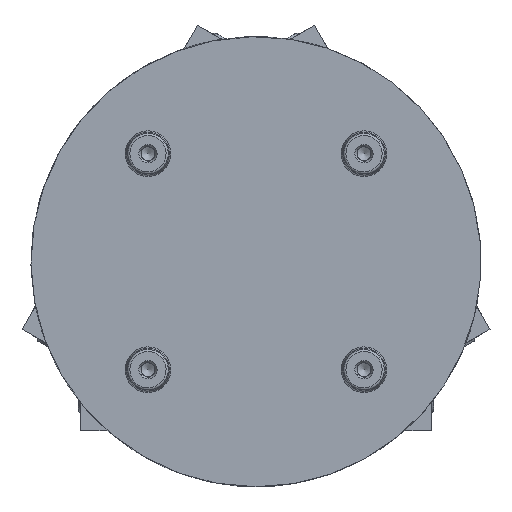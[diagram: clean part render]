
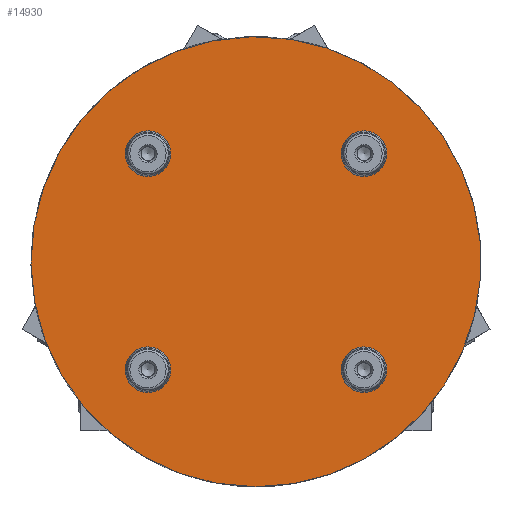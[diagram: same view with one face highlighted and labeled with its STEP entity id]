
A CAD part, front view. The second image highlights one B-rep face of the part: STEP entity #14930.
In plain terms, the highlighted planar face has unit normal (0, -1, 0).
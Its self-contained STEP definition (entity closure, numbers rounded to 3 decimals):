
#125 = VERTEX_POINT ( 'NONE', #13657 ) ;
#210 = CARTESIAN_POINT ( 'NONE',  ( 48., -22., 56.007 ) ) ;
#482 = VERTEX_POINT ( 'NONE', #210 ) ;
#901 = EDGE_LOOP ( 'NONE', ( #6442 ) ) ;
#1492 = PLANE ( 'NONE',  #3126 ) ;
#1576 = FACE_BOUND ( 'NONE', #901, .T. ) ;
#1920 = AXIS2_PLACEMENT_3D ( 'NONE', #2577, #2838, #6803 ) ;
#2577 = CARTESIAN_POINT ( 'NONE',  ( 0., -22., 0. ) ) ;
#2838 = DIRECTION ( 'NONE',  ( 0., -1., 0. ) ) ;
#2978 = EDGE_CURVE ( 'NONE', #5310, #5310, #8806, .T. ) ;
#3053 = FACE_BOUND ( 'NONE', #10029, .T. ) ;
#3126 = AXIS2_PLACEMENT_3D ( 'NONE', #16510, #6855, #12438 ) ;
#3523 = ORIENTED_EDGE ( 'NONE', *, *, #5328, .T. ) ;
#3568 = EDGE_CURVE ( 'NONE', #4344, #4344, #6550, .T. ) ;
#3681 = EDGE_CURVE ( 'NONE', #482, #482, #16098, .T. ) ;
#3946 = EDGE_LOOP ( 'NONE', ( #3523 ) ) ;
#3983 = EDGE_LOOP ( 'NONE', ( #9525 ) ) ;
#4230 = CARTESIAN_POINT ( 'NONE',  ( 48., -22., -48. ) ) ;
#4265 = CARTESIAN_POINT ( 'NONE',  ( -48., -22., -39.993 ) ) ;
#4344 = VERTEX_POINT ( 'NONE', #4265 ) ;
#5310 = VERTEX_POINT ( 'NONE', #10723 ) ;
#5328 = EDGE_CURVE ( 'NONE', #125, #125, #14906, .T. ) ;
#6442 = ORIENTED_EDGE ( 'NONE', *, *, #2978, .F. ) ;
#6550 = CIRCLE ( 'NONE', #16468, 8.007 ) ;
#6620 = DIRECTION ( 'NONE',  ( 0., -1., 0. ) ) ;
#6803 = DIRECTION ( 'NONE',  ( 0., 0., -1. ) ) ;
#6855 = DIRECTION ( 'NONE',  ( 0., -1., 0. ) ) ;
#7123 = ORIENTED_EDGE ( 'NONE', *, *, #3681, .F. ) ;
#7148 = CARTESIAN_POINT ( 'NONE',  ( -48., -22., 39.993 ) ) ;
#7723 = DIRECTION ( 'NONE',  ( 0., 0., 1. ) ) ;
#8024 = DIRECTION ( 'NONE',  ( 0., -1., 0. ) ) ;
#8216 = CARTESIAN_POINT ( 'NONE',  ( -48., -22., 48. ) ) ;
#8458 = AXIS2_PLACEMENT_3D ( 'NONE', #11971, #13396, #16048 ) ;
#8806 = CIRCLE ( 'NONE', #13056, 8.007 ) ;
#9525 = ORIENTED_EDGE ( 'NONE', *, *, #16693, .F. ) ;
#9697 = FACE_BOUND ( 'NONE', #12524, .T. ) ;
#10029 = EDGE_LOOP ( 'NONE', ( #7123 ) ) ;
#10723 = CARTESIAN_POINT ( 'NONE',  ( 48., -22., -56.007 ) ) ;
#11000 = AXIS2_PLACEMENT_3D ( 'NONE', #8216, #6620, #12023 ) ;
#11111 = FACE_BOUND ( 'NONE', #3983, .T. ) ;
#11275 = CIRCLE ( 'NONE', #11000, 8.007 ) ;
#11971 = CARTESIAN_POINT ( 'NONE',  ( 48., -22., 48. ) ) ;
#12023 = DIRECTION ( 'NONE',  ( 0., 0., -1. ) ) ;
#12438 = DIRECTION ( 'NONE',  ( 0., 0., -1. ) ) ;
#12524 = EDGE_LOOP ( 'NONE', ( #15526 ) ) ;
#13050 = DIRECTION ( 'NONE',  ( 0., -1., 0. ) ) ;
#13056 = AXIS2_PLACEMENT_3D ( 'NONE', #4230, #8024, #13435 ) ;
#13396 = DIRECTION ( 'NONE',  ( 0., -1., 0. ) ) ;
#13435 = DIRECTION ( 'NONE',  ( 0., 0., -1. ) ) ;
#13657 = CARTESIAN_POINT ( 'NONE',  ( 0., -22., -100. ) ) ;
#13764 = FACE_OUTER_BOUND ( 'NONE', #3946, .T. ) ;
#13886 = VERTEX_POINT ( 'NONE', #7148 ) ;
#14906 = CIRCLE ( 'NONE', #1920, 100. ) ;
#14930 = ADVANCED_FACE ( 'NONE', ( #9697, #1576, #3053, #11111, #13764 ), #1492, .T. ) ;
#15020 = CARTESIAN_POINT ( 'NONE',  ( -48., -22., -48. ) ) ;
#15526 = ORIENTED_EDGE ( 'NONE', *, *, #3568, .F. ) ;
#16048 = DIRECTION ( 'NONE',  ( 0., 0., 1. ) ) ;
#16098 = CIRCLE ( 'NONE', #8458, 8.007 ) ;
#16468 = AXIS2_PLACEMENT_3D ( 'NONE', #15020, #13050, #7723 ) ;
#16510 = CARTESIAN_POINT ( 'NONE',  ( 0., -22., 0. ) ) ;
#16693 = EDGE_CURVE ( 'NONE', #13886, #13886, #11275, .T. ) ;
